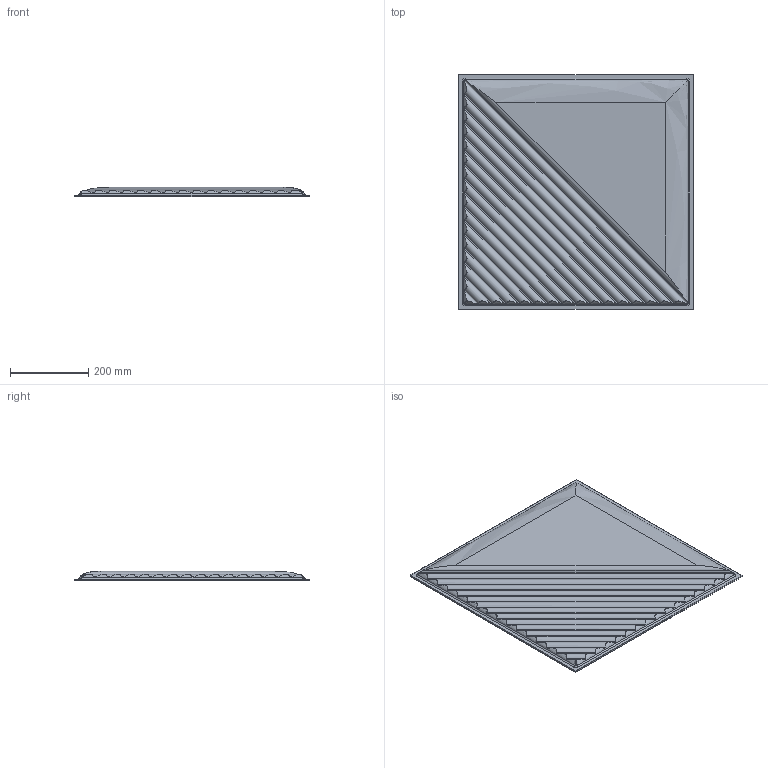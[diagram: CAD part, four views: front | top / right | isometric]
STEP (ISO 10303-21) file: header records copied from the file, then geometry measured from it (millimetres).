
FILE_DESCRIPTION(/* description */ (''),/* implementation_level */ '2;1');
FILE_NAME(/* name */ 'W1A',/* time_stamp */ '2022-12-22T16:18:03+01:00',/* author */ (''),/* organization */ (''),/* preprocessor_version */ 'ST-DEVELOPER v16.5',/* originating_system */ 'Rhino 7.22',/* authorisation */ '');
FILE_SCHEMA (('CONFIG_CONTROL_DESIGN'));
Length unit declared in the file: millimetre
Products named in the file (1): Document
Bounding box: 600 x 600 x 24.5 mm (x, y, z)
Volume: 6182708 mm3; surface area: 1492661.8 mm2
Topology: 2 solids, 2 shells, 65 faces, 172 edges, 112 vertices
Faces by surface type: bspline 25, cylinder 25, plane 15
Entity records: 3449 total; most frequent: CARTESIAN_POINT 2243, ORIENTED_EDGE 344, EDGE_CURVE 172, B_SPLINE_CURVE_WITH_KNOTS 146, VERTEX_POINT 112, EDGE_LOOP 66, ADVANCED_FACE 65, FACE_OUTER_BOUND 65
